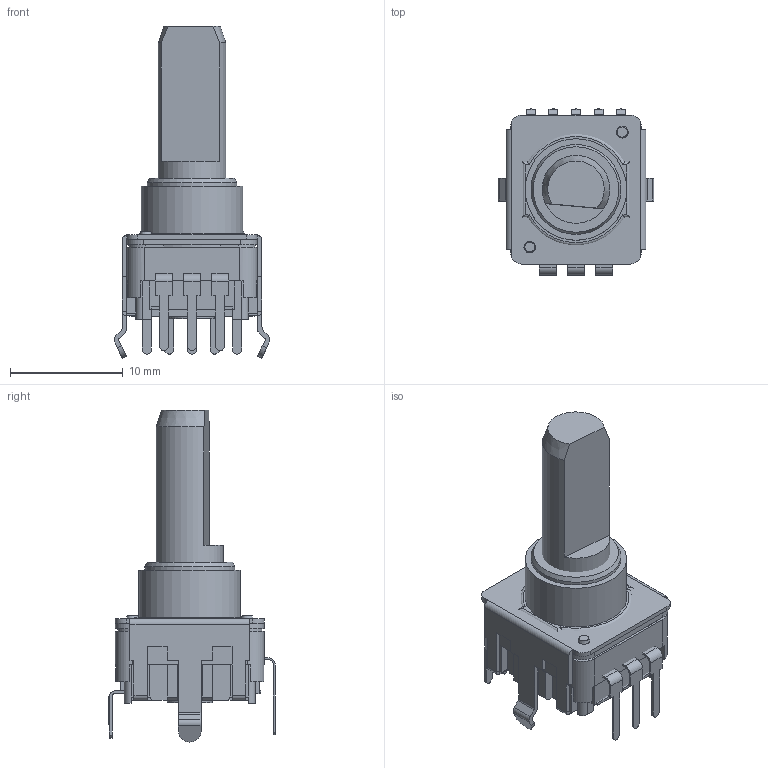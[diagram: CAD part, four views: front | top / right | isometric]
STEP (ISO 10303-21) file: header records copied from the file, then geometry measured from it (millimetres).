
FILE_DESCRIPTION(/* description */ (''),/* implementation_level */ '2;1');
FILE_NAME(/* name */ '\\Forward-ks-ad\開發專區\\X2\9AD896C45EE08A2D8A088AB2\X0\\設計機種開發作業\\X2\91CF75226A5F7A2E5C086848\X0\\ENCODER\機種開發\Encoder\DC12K\3D\CTS\DC12S12218FM31.stp',/* time_stamp */ '2020-06-18T15:35:02+08:00',/* author */ ('jia'),/* organization */ (''),/* preprocessor_version */ 'ST-DEVELOPER v15.2',/* originating_system */ 'Autodesk Inventor 2014',/* authorisation */ '');
FILE_SCHEMA (('AUTOMOTIVE_DESIGN { 1 0 10303 214 3 1 1 }'));
Length unit declared in the file: millimetre
Products named in the file (1): 組合1_Shrinkwrap_1
Bounding box: 13.79 x 14.75 x 29.44 mm (x, y, z)
Surface area: 2404 mm2 (no closed solid volume)
Topology: 0 solids, 24 shells, 358 faces, 1143 edges, 784 vertices
Faces by surface type: plane 271, cylinder 81, cone 4, torus 2
Full cylindrical faces by diameter (mm): 4 x1, 6 x1, 7.98 x1, 9 x1
Entity records: 12408 total; most frequent: CARTESIAN_POINT 2353, DIRECTION 2067, ORIENTED_EDGE 1937, EDGE_CURVE 1135, LINE 901, VECTOR 901, VERTEX_POINT 783, AXIS2_PLACEMENT_3D 583
